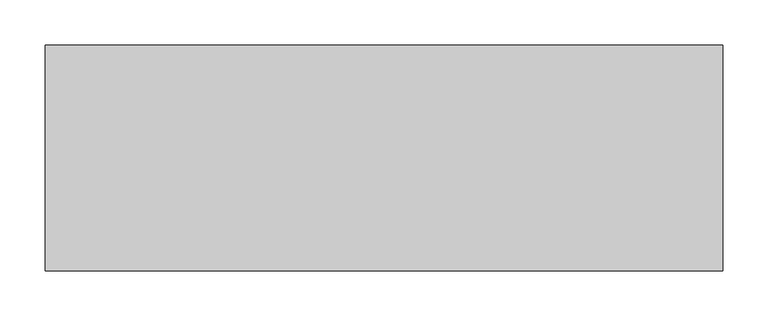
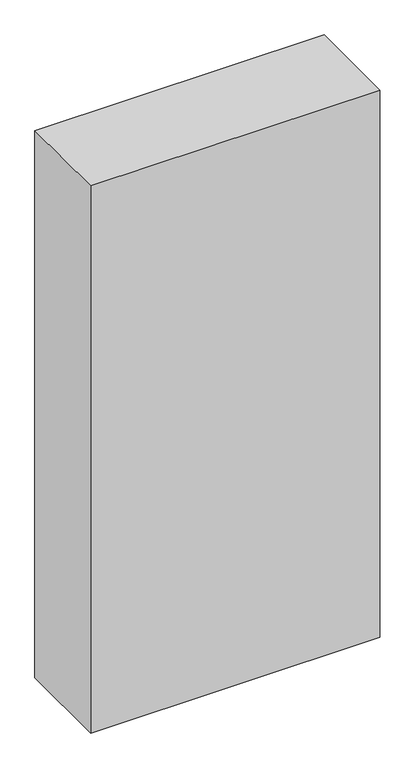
"""IFC4 building model written with IfcOpenShell, lengths in millimetres: proxy geometry, 営_屋内消火栓 : 屋内消火栓."""

from ifc_helpers import new_model, si_unit, origin, origin_with_axes, place, context, project, spatial, polyline, outline, extrude, source, transform, mapped, element, save


def specialty_equipment_ac76b24c(model_context):
    return source(origin(), model_context, "Body", "SweptSolid", [
        extrude(outline(polyline([(375.0, 0.0), (375.0, -250.0), (-375.0, -250.0), (-375.0, 0.0), (375.0, 0.0)])), origin_with_axes(), (0.0, 0.0, 1.0), 1500.0),
    ])


if __name__ == "__main__":
    model = new_model("IFC4")
    model_context = context("Model", 3, world=origin())
    ifc_project = project(units=[si_unit("LENGTHUNIT", "METRE", prefix="MILLI")], contexts=[model_context])
    site = spatial("IfcSite", under=ifc_project)
    building = spatial("IfcBuilding", under=site)
    placement = place(None, origin())
    specialty_equipment_shape = specialty_equipment_ac76b24c(model_context)
    element("IfcBuildingElementProxy", 1, Name="営_屋内消火栓 : 屋内消火栓", ObjectType="営_屋内消火栓 : 屋内消火栓", at=placement, inside=building, context=model_context, shape_type="MappedRepresentation", body=[
        mapped(specialty_equipment_shape, transform((0.0, 0.0, 0.0), x_axis=(1.0, 0.0, 0.0), y_axis=(0.0, 1.0, 0.0), z_axis=(0.0, 0.0, 1.0))),
    ])
    save(model, "model.ifc")
